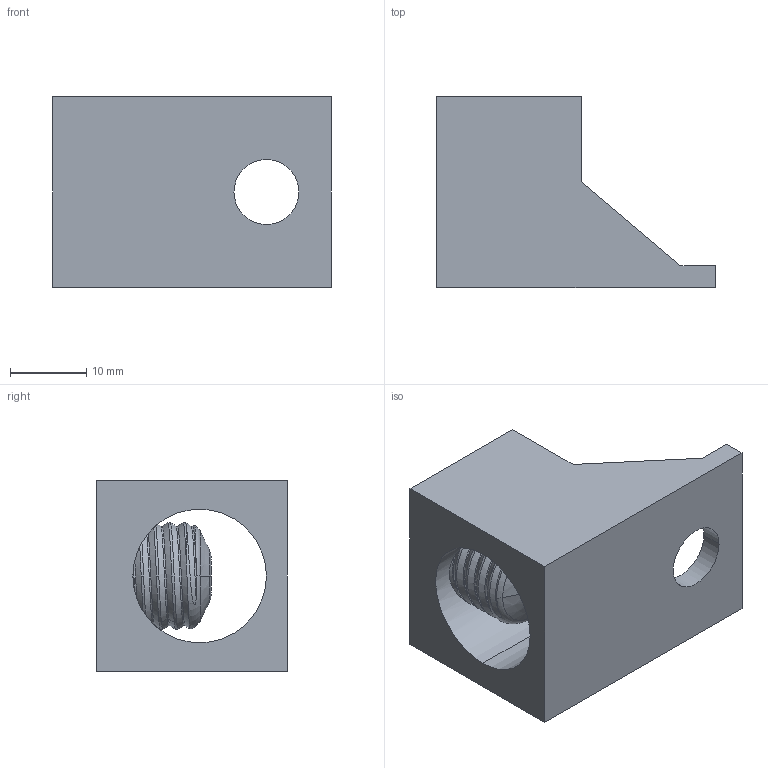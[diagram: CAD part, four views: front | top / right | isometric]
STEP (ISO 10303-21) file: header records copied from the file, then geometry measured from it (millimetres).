
FILE_DESCRIPTION((''),'2;1');
FILE_NAME('U2_CAGE_TERMINAL_ASSY_ASM','2018-06-04T',('HHI'),(''),'PRO/ENGINEER BY PARAMETRIC TECHNOLOGY CORPORATION, 2012453','PRO/ENGINEER BY PARAMETRIC TECHNOLOGY CORPORATION, 2012453','');
FILE_SCHEMA(('CONFIG_CONTROL_DESIGN'));
Length unit declared in the file: millimetre
Products named in the file (3): U2_CAGE_TERMINAL_12UP; U2_UPPER_BOLT_225AF; U2_CAGE_TERMINAL_ASSY_ASM
Assembly tree (2 placements, depth 2):
  U2_CAGE_TERMINAL_ASSY_ASM
    U2_CAGE_TERMINAL_12UP
    U2_UPPER_BOLT_225AF
Bounding box: 36.5 x 25 x 25 mm (x, y, z)
Volume: 9267.6 mm3; surface area: 6010.4 mm2
Topology: 2 solids, 2 shells, 77 faces, 189 edges, 116 vertices
Faces by surface type: cylinder 30, plane 22, bspline 15, torus 6, cone 4
Entity records: 5385 total; most frequent: CARTESIAN_POINT 3648, ORIENTED_EDGE 378, DIRECTION 287, EDGE_CURVE 189, VERTEX_POINT 116, AXIS2_PLACEMENT_3D 103, EDGE_LOOP 83, VECTOR 81
